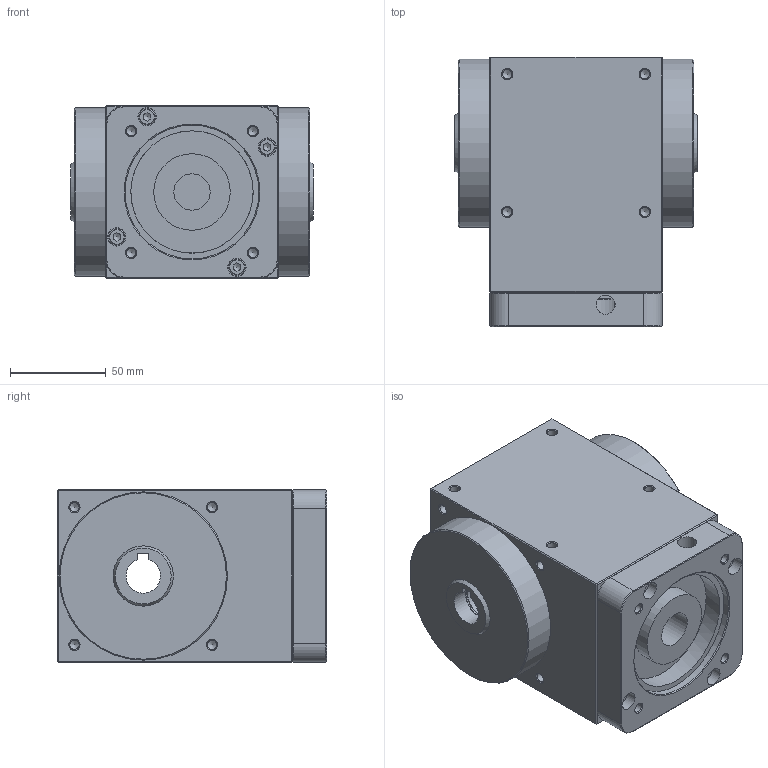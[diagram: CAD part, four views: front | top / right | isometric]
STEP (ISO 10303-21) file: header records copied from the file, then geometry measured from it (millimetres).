
FILE_DESCRIPTION((''),'2;1');
FILE_NAME('D:\유성\SBT 베벨기어박스\최종도면모음\3D\SBT090\SBT090MHS001H.stp','2014-05-20T10:33:56',('nagyu'),(''),'Autodesk Inventor 2013','Autodesk Inventor 2013','');
FILE_SCHEMA(('AUTOMOTIVE_DESIGN { 1 0 10303 214 1 1 1 1 }'));
Length unit declared in the file: millimetre
Products named in the file (1): SBT090MHS001H_Shrinkwrap_1
Bounding box: 127 x 141 x 90 mm (x, y, z)
Volume: 1249968 mm3; surface area: 99341.1 mm2
Topology: 1 solids, 5 shells, 259 faces, 648 edges, 390 vertices
Faces by surface type: plane 100, cylinder 82, cone 69, torus 8
Full cylindrical faces by diameter (mm): 4.917 x44, 5 x4, 5.5 x4, 6 x2, 8.5 x4, 9.5 x4, 10 x1, 19 x1, 40 x1, 64 x1, 70 x1, 88 x2
Entity records: 6479 total; most frequent: DIRECTION 1168, CARTESIAN_POINT 1115, ORIENTED_EDGE 882, AXIS2_PLACEMENT_3D 496, EDGE_CURVE 441, EDGE_LOOP 424, VERTEX_POINT 321, FACE_OUTER_BOUND 259
